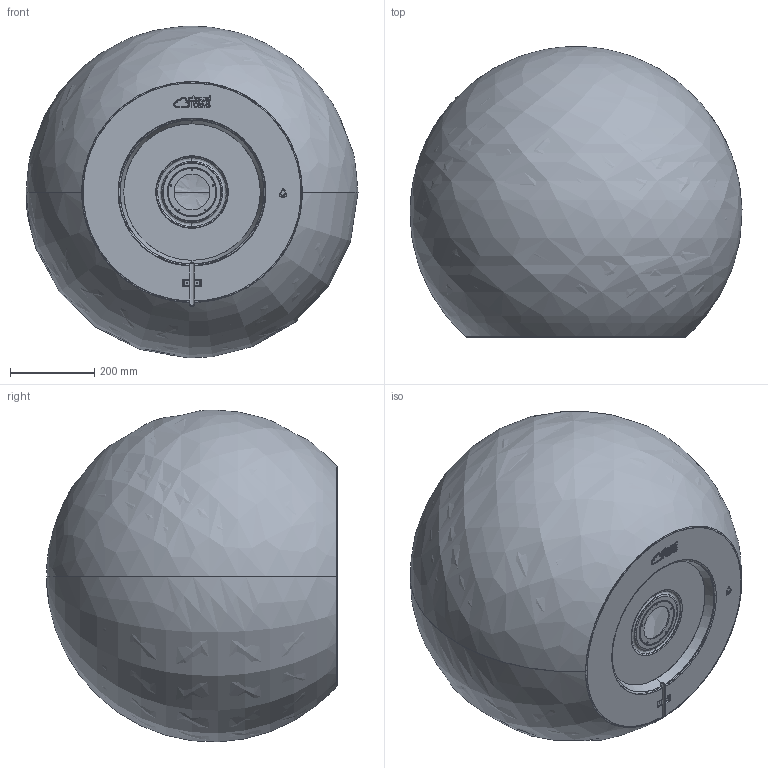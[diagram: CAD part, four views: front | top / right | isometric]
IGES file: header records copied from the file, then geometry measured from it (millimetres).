
Start section: SolidWorks IGES file using analytic representation for surfaces
Global section: file name: E:\....SOLID WORKS\...BORYS\BANKA 2\BANKA\MODEL OSTATECZNY\800 modelowanie\800.IGS; native system: SolidWorks 2016; preprocessor: SolidWorks 2016; author: DELL; date: 170421.105557; units: millimetre
Bounding box: 789.86 x 692.05 x 789.61 mm (x, y, z)
Surface area: 3862685.7 mm2 (no closed solid volume)
Topology: 0 solids, 0 shells, 660 faces, 5766 edges, 5753 vertices
Faces by surface type: bspline 592, revolution 68
